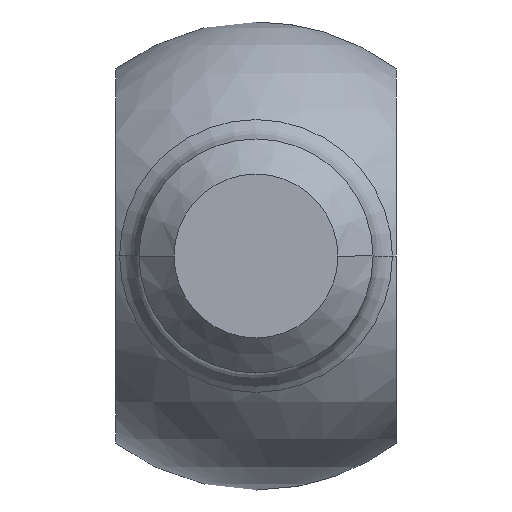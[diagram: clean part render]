
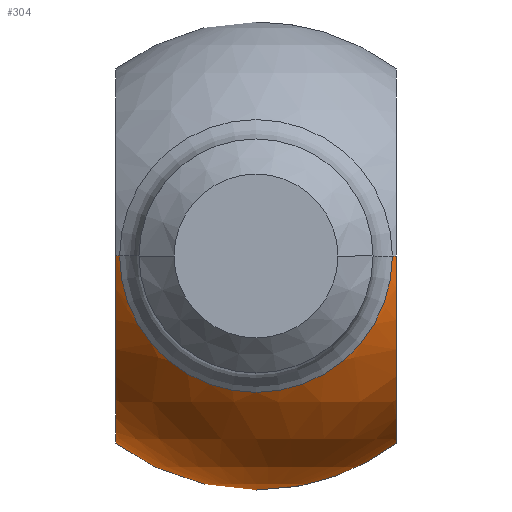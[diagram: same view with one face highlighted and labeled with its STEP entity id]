
A CAD part, left-side view. The second image highlights one B-rep face of the part: STEP entity #304.
In plain terms, the highlighted spherical face has radius 10 mm.
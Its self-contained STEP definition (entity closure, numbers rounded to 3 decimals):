
#2 = ORIENTED_EDGE ( 'NONE', *, *, #343, .T. ) ;
#15 = DIRECTION ( 'NONE',  ( 0., 0., -1. ) ) ;
#20 = DIRECTION ( 'NONE',  ( 0., -1., 0. ) ) ;
#21 = CIRCLE ( 'NONE', #309, 10. ) ;
#24 = FACE_OUTER_BOUND ( 'NONE', #120, .T. ) ;
#25 = DIRECTION ( 'NONE',  ( -1., 0., 0. ) ) ;
#37 = AXIS2_PLACEMENT_3D ( 'NONE', #250, #15, #497 ) ;
#47 = CARTESIAN_POINT ( 'NONE',  ( 0., 0., 0. ) ) ;
#49 = ORIENTED_EDGE ( 'NONE', *, *, #122, .T. ) ;
#57 = DIRECTION ( 'NONE',  ( 0., 0., -1. ) ) ;
#59 = ORIENTED_EDGE ( 'NONE', *, *, #69, .F. ) ;
#69 = EDGE_CURVE ( 'NONE', #409, #228, #123, .T. ) ;
#87 = VERTEX_POINT ( 'NONE', #302 ) ;
#89 = EDGE_CURVE ( 'NONE', #285, #156, #21, .T. ) ;
#92 = ORIENTED_EDGE ( 'NONE', *, *, #89, .F. ) ;
#94 = CARTESIAN_POINT ( 'NONE',  ( 8., 6., 0. ) ) ;
#97 = CARTESIAN_POINT ( 'NONE',  ( 0., 0., 0. ) ) ;
#98 = DIRECTION ( 'NONE',  ( -1., 0., 0. ) ) ;
#102 = CARTESIAN_POINT ( 'NONE',  ( -8.125, -5.829, 0. ) ) ;
#120 = EDGE_LOOP ( 'NONE', ( #92, #455, #510, #49, #318, #59, #2 ) ) ;
#122 = EDGE_CURVE ( 'NONE', #127, #238, #286, .T. ) ;
#123 = CIRCLE ( 'NONE', #416, 10. ) ;
#126 = EDGE_CURVE ( 'NONE', #228, #238, #222, .T. ) ;
#127 = VERTEX_POINT ( 'NONE', #340 ) ;
#129 = AXIS2_PLACEMENT_3D ( 'NONE', #337, #465, #293 ) ;
#134 = AXIS2_PLACEMENT_3D ( 'NONE', #356, #275, #192 ) ;
#147 = CARTESIAN_POINT ( 'NONE',  ( -8., 6., 0. ) ) ;
#156 = VERTEX_POINT ( 'NONE', #94 ) ;
#160 = EDGE_CURVE ( 'NONE', #285, #87, #266, .T. ) ;
#165 = DIRECTION ( 'NONE',  ( 0., -1., 0. ) ) ;
#173 = CARTESIAN_POINT ( 'NONE',  ( 0., -6., 0. ) ) ;
#192 = DIRECTION ( 'NONE',  ( 1., 0., 0. ) ) ;
#214 = DIRECTION ( 'NONE',  ( 0., 0., 1. ) ) ;
#215 = CIRCLE ( 'NONE', #134, 8. ) ;
#222 = CIRCLE ( 'NONE', #129, 5.829 ) ;
#228 = VERTEX_POINT ( 'NONE', #289 ) ;
#235 = AXIS2_PLACEMENT_3D ( 'NONE', #173, #460, #98 ) ;
#238 = VERTEX_POINT ( 'NONE', #102 ) ;
#250 = CARTESIAN_POINT ( 'NONE',  ( 0., 0., 0. ) ) ;
#256 = DIRECTION ( 'NONE',  ( 0., 0., 1. ) ) ;
#266 = CIRCLE ( 'NONE', #37, 10. ) ;
#275 = DIRECTION ( 'NONE',  ( 0., -1., 0. ) ) ;
#278 = CARTESIAN_POINT ( 'NONE',  ( 0., 0., 0. ) ) ;
#283 = CIRCLE ( 'NONE', #235, 8. ) ;
#285 = VERTEX_POINT ( 'NONE', #422 ) ;
#286 = CIRCLE ( 'NONE', #355, 10. ) ;
#289 = CARTESIAN_POINT ( 'NONE',  ( -8.125, 5.829, 0. ) ) ;
#293 = DIRECTION ( 'NONE',  ( 0., -1., 0. ) ) ;
#302 = CARTESIAN_POINT ( 'NONE',  ( 8., -6., 0. ) ) ;
#304 = ADVANCED_FACE ( 'NONE', ( #24 ), #339, .T. ) ;
#309 = AXIS2_PLACEMENT_3D ( 'NONE', #97, #214, #20 ) ;
#318 = ORIENTED_EDGE ( 'NONE', *, *, #126, .F. ) ;
#337 = CARTESIAN_POINT ( 'NONE',  ( -8.125, 0., 0. ) ) ;
#339 = SPHERICAL_SURFACE ( 'NONE', #478, 10. ) ;
#340 = CARTESIAN_POINT ( 'NONE',  ( -8., -6., 0. ) ) ;
#343 = EDGE_CURVE ( 'NONE', #409, #156, #215, .T. ) ;
#355 = AXIS2_PLACEMENT_3D ( 'NONE', #375, #57, #25 ) ;
#356 = CARTESIAN_POINT ( 'NONE',  ( 0., 6., 0. ) ) ;
#375 = CARTESIAN_POINT ( 'NONE',  ( 0., 0., 0. ) ) ;
#391 = EDGE_CURVE ( 'NONE', #87, #127, #283, .T. ) ;
#398 = DIRECTION ( 'NONE',  ( 0., -1., 0. ) ) ;
#409 = VERTEX_POINT ( 'NONE', #147 ) ;
#416 = AXIS2_PLACEMENT_3D ( 'NONE', #278, #442, #398 ) ;
#422 = CARTESIAN_POINT ( 'NONE',  ( 10., 0., 0. ) ) ;
#442 = DIRECTION ( 'NONE',  ( 0., 0., 1. ) ) ;
#455 = ORIENTED_EDGE ( 'NONE', *, *, #160, .T. ) ;
#460 = DIRECTION ( 'NONE',  ( 0., 1., 0. ) ) ;
#465 = DIRECTION ( 'NONE',  ( -1., 0., 0. ) ) ;
#478 = AXIS2_PLACEMENT_3D ( 'NONE', #47, #256, #165 ) ;
#497 = DIRECTION ( 'NONE',  ( -1., 0., 0. ) ) ;
#510 = ORIENTED_EDGE ( 'NONE', *, *, #391, .T. ) ;
